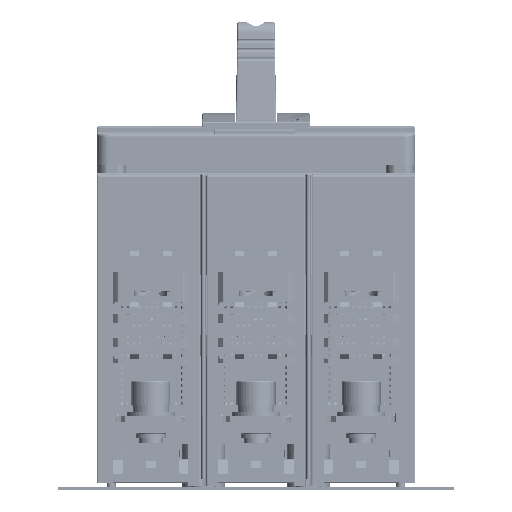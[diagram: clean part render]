
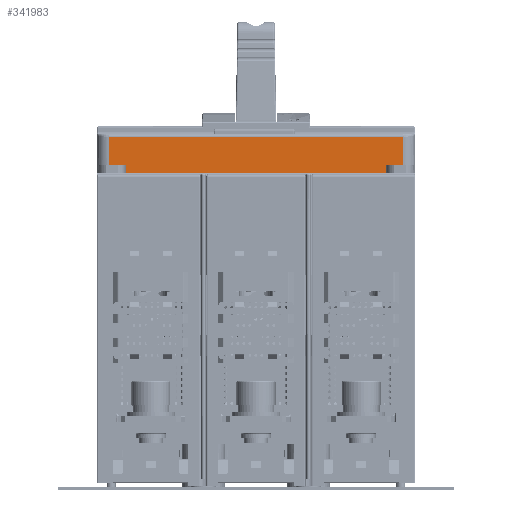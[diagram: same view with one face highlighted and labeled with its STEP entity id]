
A CAD part, left-side view. The second image highlights one B-rep face of the part: STEP entity #341983.
In plain terms, the highlighted planar face has unit normal (-1, 0, 0) as drawn and (0, 1, 0) by its records, which use the part's own axes.
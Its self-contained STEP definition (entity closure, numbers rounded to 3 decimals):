
#276156=DIRECTION('',(0.,0.,1.));
#276157=VECTOR('',#276156,1.5);
#276158=CARTESIAN_POINT('',(25.,73.,23.));
#276159=LINE('',#276158,#276157);
#276160=DIRECTION('',(-1.,0.,0.));
#276161=VECTOR('',#276160,98.);
#276162=CARTESIAN_POINT('',(101.5,73.,
37.5));
#276163=LINE('',#276162,#276161);
#276164=DIRECTION('',(0.,0.,-1.));
#276165=VECTOR('',#276164,14.5);
#276166=CARTESIAN_POINT('',(3.5,73.,
37.5));
#276167=LINE('',#276166,#276165);
#276168=DIRECTION('',(1.,0.,0.));
#276169=VECTOR('',#276168,6.5);
#276170=CARTESIAN_POINT('',(3.5,73.,23.));
#276171=LINE('',#276170,#276169);
#276172=CARTESIAN_POINT('',(11.,73.,24.5));
#276173=DIRECTION('',(0.,1.,0.));
#276174=DIRECTION('',(-1.,0.,0.));
#276175=AXIS2_PLACEMENT_3D('',#276172,#276173,#276174);
#276177=CARTESIAN_POINT('',(24.,73.,24.5));
#276178=DIRECTION('',(0.,1.,0.));
#276179=DIRECTION('',(0.,0.,1.));
#276180=AXIS2_PLACEMENT_3D('',#276177,#276178,#276179);
#276182=DIRECTION('',(1.,0.,0.));
#276183=VECTOR('',#276182,20.);
#276184=CARTESIAN_POINT('',(25.,73.,23.));
#276185=LINE('',#276184,#276183);
#276186=CARTESIAN_POINT('',(46.,73.,24.5));
#276187=DIRECTION('',(0.,1.,0.));
#276188=DIRECTION('',(-1.,0.,0.));
#276189=AXIS2_PLACEMENT_3D('',#276186,#276187,#276188);
#276191=CARTESIAN_POINT('',(59.,73.,24.5));
#276192=DIRECTION('',(0.,1.,0.));
#276193=DIRECTION('',(0.,0.,1.));
#276194=AXIS2_PLACEMENT_3D('',#276191,#276192,#276193);
#276196=DIRECTION('',(1.,0.,0.));
#276197=VECTOR('',#276196,20.);
#276198=CARTESIAN_POINT('',(60.,73.,23.));
#276199=LINE('',#276198,#276197);
#276200=CARTESIAN_POINT('',(81.,73.,24.5));
#276201=DIRECTION('',(0.,1.,0.));
#276202=DIRECTION('',(-1.,0.,0.));
#276203=AXIS2_PLACEMENT_3D('',#276200,#276201,#276202);
#276205=CARTESIAN_POINT('',(94.,73.,24.5));
#276206=DIRECTION('',(0.,1.,0.));
#276207=DIRECTION('',(0.,0.,1.));
#276208=AXIS2_PLACEMENT_3D('',#276205,#276206,#276207);
#276210=DIRECTION('',(1.,0.,0.));
#276211=VECTOR('',#276210,6.5);
#276212=CARTESIAN_POINT('',(95.,73.,23.));
#276213=LINE('',#276212,#276211);
#276214=DIRECTION('',(0.,0.,1.));
#276215=VECTOR('',#276214,14.5);
#276216=CARTESIAN_POINT('',(101.5,73.,23.));
#276217=LINE('',#276216,#276215);
#288315=DIRECTION('',(0.,0.,-1.));
#288316=VECTOR('',#288315,1.5);
#288317=CARTESIAN_POINT('',(45.,73.,24.5));
#288318=LINE('',#288317,#288316);
#288327=DIRECTION('',(-1.,0.,0.));
#288328=VECTOR('',#288327,13.);
#288329=CARTESIAN_POINT('',(59.,73.,25.5));
#288330=LINE('',#288329,#288328);
#288352=DIRECTION('',(0.,0.,1.));
#288353=VECTOR('',#288352,1.5);
#288354=CARTESIAN_POINT('',(60.,73.,23.));
#288355=LINE('',#288354,#288353);
#292319=DIRECTION('',(0.,0.,-1.));
#292320=VECTOR('',#292319,1.5);
#292321=CARTESIAN_POINT('',(10.,73.,24.5));
#292322=LINE('',#292321,#292320);
#292400=DIRECTION('',(-1.,0.,0.));
#292401=VECTOR('',#292400,13.);
#292402=CARTESIAN_POINT('',(24.,73.,25.5));
#292403=LINE('',#292402,#292401);
#292438=DIRECTION('',(0.,0.,-1.));
#292439=VECTOR('',#292438,1.5);
#292440=CARTESIAN_POINT('',(80.,73.,24.5));
#292441=LINE('',#292440,#292439);
#292460=DIRECTION('',(-1.,0.,0.));
#292461=VECTOR('',#292460,13.);
#292462=CARTESIAN_POINT('',(94.,73.,25.5));
#292463=LINE('',#292462,#292461);
#292485=DIRECTION('',(0.,0.,1.));
#292486=VECTOR('',#292485,1.5);
#292487=CARTESIAN_POINT('',(95.,73.,23.));
#292488=LINE('',#292487,#292486);
#307632=CARTESIAN_POINT('',(80.,73.,23.));
#307633=VERTEX_POINT('',#307632);
#307634=CARTESIAN_POINT('',(95.,73.,23.));
#307635=VERTEX_POINT('',#307634);
#308777=CARTESIAN_POINT('',(10.,73.,23.));
#308778=VERTEX_POINT('',#308777);
#308779=CARTESIAN_POINT('',(25.,73.,23.));
#308780=VERTEX_POINT('',#308779);
#308787=CARTESIAN_POINT('',(25.,73.,24.5));
#308788=VERTEX_POINT('',#308787);
#308791=CARTESIAN_POINT('',(101.5,73.,
37.5));
#308792=CARTESIAN_POINT('',(3.5,73.,
37.5));
#308793=VERTEX_POINT('',#308791);
#308794=VERTEX_POINT('',#308792);
#308795=CARTESIAN_POINT('',(3.5,73.,23.));
#308796=VERTEX_POINT('',#308795);
#308797=CARTESIAN_POINT('',(10.,73.,24.5));
#308798=VERTEX_POINT('',#308797);
#308799=CARTESIAN_POINT('',(11.,73.,25.5));
#308800=VERTEX_POINT('',#308799);
#308801=CARTESIAN_POINT('',(24.,73.,25.5));
#308802=VERTEX_POINT('',#308801);
#308803=CARTESIAN_POINT('',(45.,73.,23.));
#308804=VERTEX_POINT('',#308803);
#308805=CARTESIAN_POINT('',(45.,73.,24.5));
#308806=VERTEX_POINT('',#308805);
#308807=CARTESIAN_POINT('',(46.,73.,25.5));
#308808=VERTEX_POINT('',#308807);
#308809=CARTESIAN_POINT('',(59.,73.,25.5));
#308810=VERTEX_POINT('',#308809);
#308811=CARTESIAN_POINT('',(60.,73.,24.5));
#308812=VERTEX_POINT('',#308811);
#308813=CARTESIAN_POINT('',(60.,73.,23.));
#308814=VERTEX_POINT('',#308813);
#308815=CARTESIAN_POINT('',(80.,73.,24.5));
#308816=VERTEX_POINT('',#308815);
#308817=CARTESIAN_POINT('',(81.,73.,25.5));
#308818=VERTEX_POINT('',#308817);
#308819=CARTESIAN_POINT('',(94.,73.,25.5));
#308820=VERTEX_POINT('',#308819);
#308821=CARTESIAN_POINT('',(95.,73.,24.5));
#308822=VERTEX_POINT('',#308821);
#308823=CARTESIAN_POINT('',(101.5,73.,23.));
#308824=VERTEX_POINT('',#308823);
#341933=CARTESIAN_POINT('',(0.,73.,23.));
#341934=DIRECTION('',(0.,1.,0.));
#341935=DIRECTION('',(0.,0.,-1.));
#341936=AXIS2_PLACEMENT_3D('',#341933,#341934,#341935);
#341937=PLANE('',#341936);
#341939=ORIENTED_EDGE('',*,*,#341938,.T.);
#341941=ORIENTED_EDGE('',*,*,#341940,.T.);
#341943=ORIENTED_EDGE('',*,*,#341942,.T.);
#341945=ORIENTED_EDGE('',*,*,#341944,.F.);
#341947=ORIENTED_EDGE('',*,*,#341946,.T.);
#341949=ORIENTED_EDGE('',*,*,#341948,.F.);
#341951=ORIENTED_EDGE('',*,*,#341950,.T.);
#341952=ORIENTED_EDGE('',*,*,#341917,.F.);
#341954=ORIENTED_EDGE('',*,*,#341953,.T.);
#341956=ORIENTED_EDGE('',*,*,#341955,.F.);
#341958=ORIENTED_EDGE('',*,*,#341957,.T.);
#341960=ORIENTED_EDGE('',*,*,#341959,.F.);
#341962=ORIENTED_EDGE('',*,*,#341961,.T.);
#341964=ORIENTED_EDGE('',*,*,#341963,.F.);
#341966=ORIENTED_EDGE('',*,*,#341965,.T.);
#341968=ORIENTED_EDGE('',*,*,#341967,.F.);
#341970=ORIENTED_EDGE('',*,*,#341969,.T.);
#341972=ORIENTED_EDGE('',*,*,#341971,.F.);
#341974=ORIENTED_EDGE('',*,*,#341973,.T.);
#341976=ORIENTED_EDGE('',*,*,#341975,.F.);
#341978=ORIENTED_EDGE('',*,*,#341977,.T.);
#341980=ORIENTED_EDGE('',*,*,#341979,.T.);
#341981=EDGE_LOOP('',(#341939,#341941,#341943,#341945,#341947,#341949,#341951,
#341952,#341954,#341956,#341958,#341960,#341962,#341964,#341966,#341968,#341970,
#341972,#341974,#341976,#341978,#341980));
#341982=FACE_OUTER_BOUND('',#341981,.F.);
#341983=ADVANCED_FACE('',(#341982),#341937,.T.);
#276176=CIRCLE('',#276175,1.);
#276181=CIRCLE('',#276180,1.);
#276190=CIRCLE('',#276189,1.);
#276195=CIRCLE('',#276194,1.);
#276204=CIRCLE('',#276203,1.);
#276209=CIRCLE('',#276208,1.);
#341917=EDGE_CURVE('',#308780,#308788,#276159,.T.);
#341938=EDGE_CURVE('',#308793,#308794,#276163,.T.);
#341940=EDGE_CURVE('',#308794,#308796,#276167,.T.);
#341942=EDGE_CURVE('',#308796,#308778,#276171,.T.);
#341944=EDGE_CURVE('',#308798,#308778,#292322,.T.);
#341946=EDGE_CURVE('',#308798,#308800,#276176,.T.);
#341948=EDGE_CURVE('',#308802,#308800,#292403,.T.);
#341950=EDGE_CURVE('',#308802,#308788,#276181,.T.);
#341953=EDGE_CURVE('',#308780,#308804,#276185,.T.);
#341955=EDGE_CURVE('',#308806,#308804,#288318,.T.);
#341957=EDGE_CURVE('',#308806,#308808,#276190,.T.);
#341959=EDGE_CURVE('',#308810,#308808,#288330,.T.);
#341961=EDGE_CURVE('',#308810,#308812,#276195,.T.);
#341963=EDGE_CURVE('',#308814,#308812,#288355,.T.);
#341965=EDGE_CURVE('',#308814,#307633,#276199,.T.);
#341967=EDGE_CURVE('',#308816,#307633,#292441,.T.);
#341969=EDGE_CURVE('',#308816,#308818,#276204,.T.);
#341971=EDGE_CURVE('',#308820,#308818,#292463,.T.);
#341973=EDGE_CURVE('',#308820,#308822,#276209,.T.);
#341975=EDGE_CURVE('',#307635,#308822,#292488,.T.);
#341977=EDGE_CURVE('',#307635,#308824,#276213,.T.);
#341979=EDGE_CURVE('',#308824,#308793,#276217,.T.);
